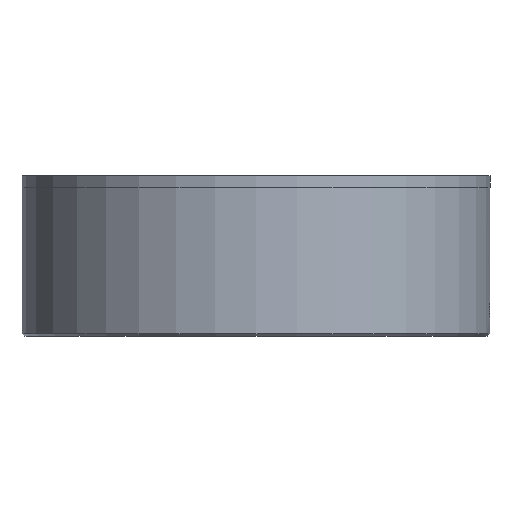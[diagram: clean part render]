
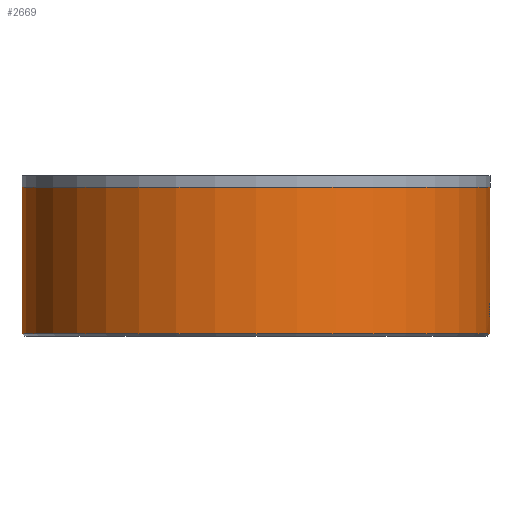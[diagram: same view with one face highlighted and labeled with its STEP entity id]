
A CAD part, front view. The second image highlights one B-rep face of the part: STEP entity #2669.
In plain terms, the highlighted cylindrical face has radius 40 mm (diameter 80 mm), a partial arc.
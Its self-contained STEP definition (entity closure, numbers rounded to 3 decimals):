
#69 = VERTEX_POINT ( 'NONE', #766 ) ;
#144 = CARTESIAN_POINT ( 'NONE',  ( 39.847, -3.288, 73.251 ) ) ;
#178 = EDGE_CURVE ( 'NONE', #3301, #2160, #3029, .T. ) ;
#187 = VERTEX_POINT ( 'NONE', #1566 ) ;
#233 = CARTESIAN_POINT ( 'NONE',  ( 39.837, -3.469, 70.517 ) ) ;
#327 = CARTESIAN_POINT ( 'NONE',  ( 39.895, -1.309, 69.306 ) ) ;
#354 = DIRECTION ( 'NONE',  ( 1., 0., 0. ) ) ;
#391 = ORIENTED_EDGE ( 'NONE', *, *, #1612, .T. ) ;
#434 = CARTESIAN_POINT ( 'NONE',  ( 39.895, -1.309, 74.194 ) ) ;
#522 = CARTESIAN_POINT ( 'NONE',  ( 39.837, -3.471, 72.979 ) ) ;
#576 = EDGE_LOOP ( 'NONE', ( #1567, #2337, #2646, #993, #1311, #391 ) ) ;
#614 = CARTESIAN_POINT ( 'NONE',  ( 39.847, -3.287, 70.248 ) ) ;
#694 = DIRECTION ( 'NONE',  ( 0., 0., -1. ) ) ;
#720 = DIRECTION ( 'NONE',  ( 0., 0., 1. ) ) ;
#766 = CARTESIAN_POINT ( 'NONE',  ( -40.105, -1.309, 67.75 ) ) ;
#808 = CARTESIAN_POINT ( 'NONE',  ( 39.895, -1.471, 74.194 ) ) ;
#855 = VECTOR ( 'NONE', #2305, 1000. ) ;
#897 = CARTESIAN_POINT ( 'NONE',  ( 39.826, -3.656, 72.536 ) ) ;
#904 = VERTEX_POINT ( 'NONE', #1632 ) ;
#981 = CARTESIAN_POINT ( 'NONE',  ( 39.862, -2.943, 69.908 ) ) ;
#993 = ORIENTED_EDGE ( 'NONE', *, *, #1708, .T. ) ;
#1069 = CARTESIAN_POINT ( 'NONE',  ( 39.895, -1.309, 92.75 ) ) ;
#1090 = CARTESIAN_POINT ( 'NONE',  ( -0.105, -1.309, 67.75 ) ) ;
#1146 = VERTEX_POINT ( 'NONE', #2713 ) ;
#1173 = CARTESIAN_POINT ( 'NONE',  ( 39.895, -1.309, 67.75 ) ) ;
#1175 = CARTESIAN_POINT ( 'NONE',  ( 39.894, -1.634, 74.179 ) ) ;
#1195 = VECTOR ( 'NONE', #1767, 1000. ) ;
#1230 = EDGE_CURVE ( 'NONE', #904, #187, #1439, .T. ) ;
#1257 = CARTESIAN_POINT ( 'NONE',  ( 39.823, -3.704, 72.382 ) ) ;
#1311 = ORIENTED_EDGE ( 'NONE', *, *, #178, .F. ) ;
#1347 = CARTESIAN_POINT ( 'NONE',  ( 39.867, -2.818, 69.807 ) ) ;
#1363 = CARTESIAN_POINT ( 'NONE',  ( 39.895, -1.309, 69.306 ) ) ;
#1439 = LINE ( 'NONE', #1069, #2177 ) ;
#1546 = CARTESIAN_POINT ( 'NONE',  ( 39.89, -1.953, 74.116 ) ) ;
#1566 = CARTESIAN_POINT ( 'NONE',  ( 39.895, -1.309, 74.194 ) ) ;
#1567 = ORIENTED_EDGE ( 'NONE', *, *, #1230, .F. ) ;
#1612 = EDGE_CURVE ( 'NONE', #3301, #187, #3558, .T. ) ;
#1632 = CARTESIAN_POINT ( 'NONE',  ( 39.895, -1.309, 92.75 ) ) ;
#1639 = CARTESIAN_POINT ( 'NONE',  ( 39.82, -3.767, 72.068 ) ) ;
#1672 = DIRECTION ( 'NONE',  ( 1., 0., 0. ) ) ;
#1708 = EDGE_CURVE ( 'NONE', #69, #2160, #3375, .T. ) ;
#1729 = CARTESIAN_POINT ( 'NONE',  ( 39.876, -2.549, 69.629 ) ) ;
#1767 = DIRECTION ( 'NONE',  ( 0., 0., -1. ) ) ;
#1922 = CARTESIAN_POINT ( 'NONE',  ( 39.887, -2.11, 74.068 ) ) ;
#2011 = CARTESIAN_POINT ( 'NONE',  ( 39.819, -3.782, 71.91 ) ) ;
#2041 = DIRECTION ( 'NONE',  ( 0., 0., 1. ) ) ;
#2094 = CARTESIAN_POINT ( 'NONE',  ( 39.88, -2.404, 69.553 ) ) ;
#2130 = CARTESIAN_POINT ( 'NONE',  ( -40.105, -1.309, 92.75 ) ) ;
#2160 = VERTEX_POINT ( 'NONE', #1173 ) ;
#2177 = VECTOR ( 'NONE', #694, 1000. ) ;
#2189 = DIRECTION ( 'NONE',  ( -1., 0., 0. ) ) ;
#2283 = CARTESIAN_POINT ( 'NONE',  ( 39.88, -2.408, 73.945 ) ) ;
#2305 = DIRECTION ( 'NONE',  ( 0., 0., -1. ) ) ;
#2337 = ORIENTED_EDGE ( 'NONE', *, *, #3168, .F. ) ;
#2367 = CARTESIAN_POINT ( 'NONE',  ( 39.819, -3.782, 71.588 ) ) ;
#2403 = CARTESIAN_POINT ( 'NONE',  ( -0.105, -1.309, 92.75 ) ) ;
#2458 = CARTESIAN_POINT ( 'NONE',  ( 39.888, -2.106, 69.431 ) ) ;
#2493 = LINE ( 'NONE', #2130, #1195 ) ;
#2529 = AXIS2_PLACEMENT_3D ( 'NONE', #2924, #2559, #2189 ) ;
#2559 = DIRECTION ( 'NONE',  ( 0., 0., -1. ) ) ;
#2641 = CARTESIAN_POINT ( 'NONE',  ( 39.876, -2.549, 73.871 ) ) ;
#2646 = ORIENTED_EDGE ( 'NONE', *, *, #3457, .T. ) ;
#2658 = CARTESIAN_POINT ( 'NONE',  ( 39.895, -1.309, 92.75 ) ) ;
#2669 = ADVANCED_FACE ( 'NONE', ( #3361 ), #3561, .T. ) ;
#2713 = CARTESIAN_POINT ( 'NONE',  ( -40.105, -1.309, 92.75 ) ) ;
#2736 = CARTESIAN_POINT ( 'NONE',  ( 39.82, -3.766, 71.428 ) ) ;
#2797 = CIRCLE ( 'NONE', #3487, 40. ) ;
#2827 = CARTESIAN_POINT ( 'NONE',  ( 39.89, -1.952, 69.385 ) ) ;
#2924 = CARTESIAN_POINT ( 'NONE',  ( -0.105, -1.309, 92.75 ) ) ;
#3013 = CARTESIAN_POINT ( 'NONE',  ( 39.867, -2.82, 73.692 ) ) ;
#3029 = LINE ( 'NONE', #2658, #855 ) ;
#3034 = AXIS2_PLACEMENT_3D ( 'NONE', #1090, #720, #354 ) ;
#3108 = CARTESIAN_POINT ( 'NONE',  ( 39.823, -3.703, 71.115 ) ) ;
#3168 = EDGE_CURVE ( 'NONE', #1146, #904, #2797, .T. ) ;
#3195 = CARTESIAN_POINT ( 'NONE',  ( 39.894, -1.633, 69.322 ) ) ;
#3301 = VERTEX_POINT ( 'NONE', #1363 ) ;
#3361 = FACE_OUTER_BOUND ( 'NONE', #576, .T. ) ;
#3375 = CIRCLE ( 'NONE', #3034, 40. ) ;
#3393 = CARTESIAN_POINT ( 'NONE',  ( 39.862, -2.946, 73.589 ) ) ;
#3457 = EDGE_CURVE ( 'NONE', #1146, #69, #2493, .T. ) ;
#3487 = AXIS2_PLACEMENT_3D ( 'NONE', #2403, #2041, #1672 ) ;
#3488 = CARTESIAN_POINT ( 'NONE',  ( 39.826, -3.656, 70.963 ) ) ;
#3558 = B_SPLINE_CURVE_WITH_KNOTS ( 'NONE', 3,
 ( #327, #3578, #3195, #2827, #2458, #2094, #1729, #1347, #981, #614, #233, #3488, #3108, #2736, #2367, #2011, #1639, #1257, #897, #522, #144, #3393, #3013, #2641, #2283, #1922, #1546, #1175, #808, #434 ),
 .UNSPECIFIED., .F., .F.,
 ( 4, 2, 2, 2, 2, 2, 2, 2, 2, 2, 2, 2, 2, 2, 4 ),
 ( 0., 0.031, 0.062, 0.094, 0.125, 0.187, 0.219, 0.25, 0.281, 0.312, 0.375, 0.406, 0.437, 0.469, 0.5 ),
 .UNSPECIFIED. ) ;
#3561 = CYLINDRICAL_SURFACE ( 'NONE', #2529, 40. ) ;
#3578 = CARTESIAN_POINT ( 'NONE',  ( 39.895, -1.471, 69.306 ) ) ;
